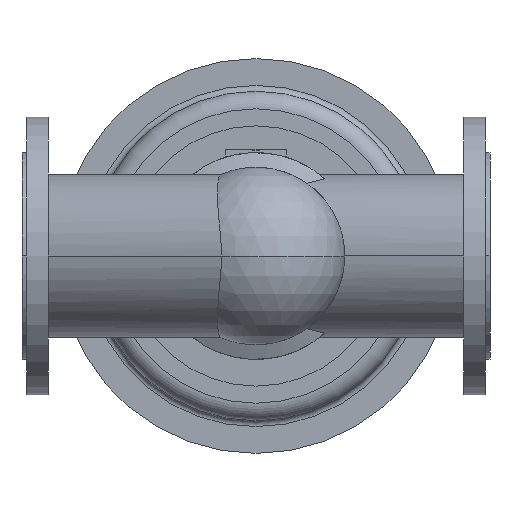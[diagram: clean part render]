
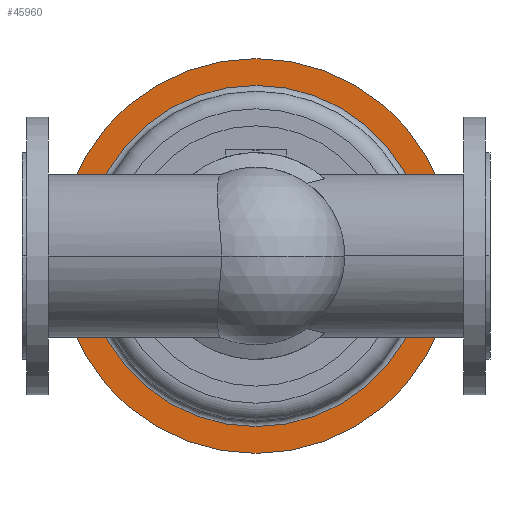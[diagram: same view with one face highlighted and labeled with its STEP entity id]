
A CAD part, front view. The second image highlights one B-rep face of the part: STEP entity #45960.
In plain terms, the highlighted planar face has unit normal (0, -1, 0).
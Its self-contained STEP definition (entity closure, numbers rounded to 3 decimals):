
#33340=CARTESIAN_POINT('',(442.5,675.,0.));
#33350=VERTEX_POINT('',#33340);
#33380=CARTESIAN_POINT('',(240.,675.,0.));
#33390=DIRECTION('',(0.,1.,0.));
#33400=DIRECTION('',(1.,0.,0.));
#33410=AXIS2_PLACEMENT_3D('',#33380,#33390,#33400);
#33420=CIRCLE('',#33410,202.5);
#33430=CARTESIAN_POINT('',(37.5,675.,0.));
#33440=VERTEX_POINT('',#33430);
#33450=EDGE_CURVE('',#33440,#33350,#33420,.T.);
#33770=CARTESIAN_POINT('',(415.,675.,0.));
#33780=VERTEX_POINT('',#33770);
#33810=CARTESIAN_POINT('',(240.,675.,0.));
#33820=DIRECTION('',(0.,1.,0.));
#33830=DIRECTION('',(1.,0.,0.));
#33840=AXIS2_PLACEMENT_3D('',#33810,#33820,#33830);
#33850=CIRCLE('',#33840,175.);
#33860=CARTESIAN_POINT('',(240.,675.,-175.));
#33870=VERTEX_POINT('',#33860);
#33880=EDGE_CURVE('',#33780,#33870,#33850,.T.);
#33900=CARTESIAN_POINT('',(65.,675.,0.));
#33910=VERTEX_POINT('',#33900);
#33920=EDGE_CURVE('',#33870,#33910,#33850,.T.);
#45800=CARTESIAN_POINT('',(428.75,675.,0.));
#45810=DIRECTION('',(0.,-1.,0.));
#45820=DIRECTION('',(-1.,0.,0.));
#45830=AXIS2_PLACEMENT_3D('',#45800,#45810,#45820);
#45840=PLANE('',#45830);
#45850=ORIENTED_EDGE('',*,*,#33450,.F.);
#45860=EDGE_CURVE('',#33350,#33440,#33420,.T.);
#45870=ORIENTED_EDGE('',*,*,#45860,.F.);
#45880=EDGE_LOOP('',(#45870,#45850));
#45890=FACE_OUTER_BOUND('',#45880,.T.);
#45900=EDGE_CURVE('',#33910,#33780,#33850,.T.);
#45910=ORIENTED_EDGE('',*,*,#45900,.T.);
#45920=ORIENTED_EDGE('',*,*,#33920,.T.);
#45930=ORIENTED_EDGE('',*,*,#33880,.T.);
#45940=EDGE_LOOP('',(#45930,#45920,#45910));
#45950=FACE_BOUND('',#45940,.T.);
#45960=ADVANCED_FACE('',(#45890,#45950),#45840,.T.);
